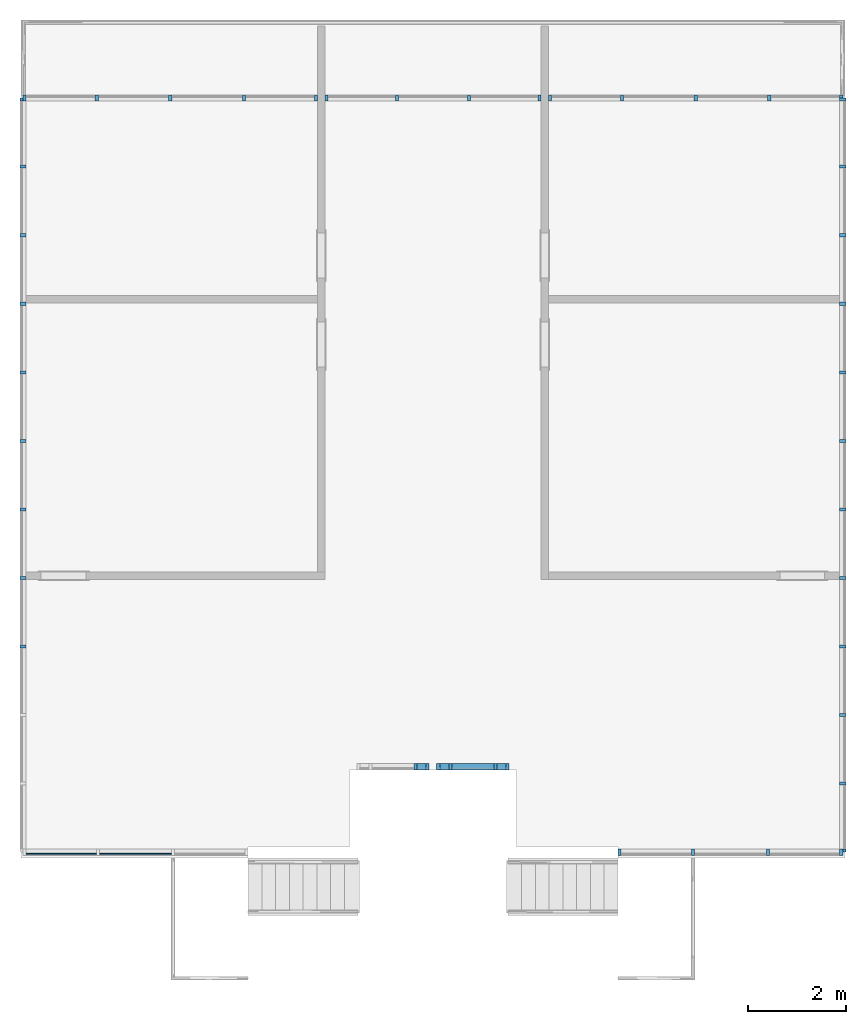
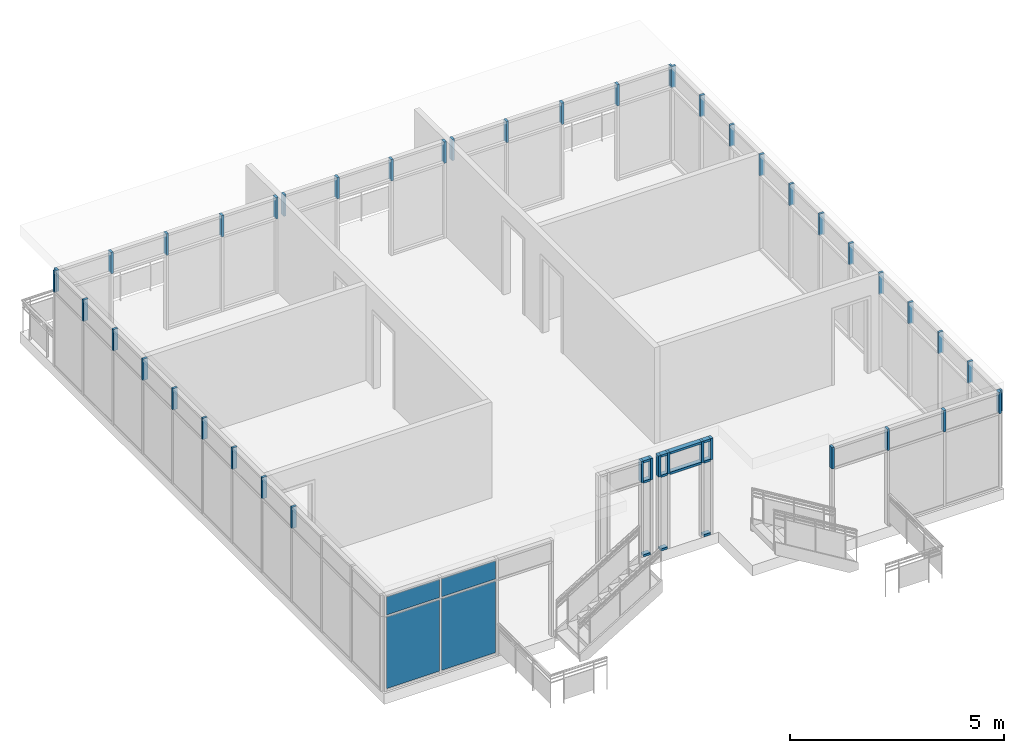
# One storey, part 4 of 11: 56 members, 4 plates, 9 elements without a shape of their own.
"""IFC2X3 building model written with IfcOpenShell, lengths in feet."""

from ifc_helpers import new_model, entity, si_unit, converted_unit, derived_unit, direction, frame, frame_2d, origin, origin_2d_with_axis, place, context, subcontext, project, spatial, rectangle, extrude, source, transform, mapped, material, layer, layer_set, layer_usage, type_object, type_shapes, element, aggregate, save


model = new_model("IFC2X3")

# Units and contexts
model_context = context("Model", 3, precision=0.0001, world=origin(), true_north=direction((6.12303176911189e-17, 1.0)))
body_context = subcontext(model_context, "Body", "Model", "MODEL_VIEW")
ifc_project = project(units=[converted_unit("LENGTHUNIT", "FOOT", entity("IfcRatioMeasure", 0.3048), si_unit("LENGTHUNIT", "METRE"), dimensions=[1, 0, 0, 0, 0, 0, 0]), converted_unit("AREAUNIT", "SQUARE FOOT", entity("IfcRatioMeasure", 0.09290304), si_unit("AREAUNIT", "SQUARE_METRE"), dimensions=[2, 0, 0, 0, 0, 0, 0]), converted_unit("VOLUMEUNIT", "CUBIC FOOT", entity("IfcRatioMeasure", 0.028316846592), si_unit("VOLUMEUNIT", "CUBIC_METRE"), dimensions=[3, 0, 0, 0, 0, 0, 0]), converted_unit("PLANEANGLEUNIT", "DEGREE", entity("IfcRatioMeasure", 0.0174532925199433), si_unit("PLANEANGLEUNIT", "RADIAN"), dimensions=[0, 0, 0, 0, 0, 0, 0]), si_unit("MASSUNIT", "GRAM", prefix="KILO"), derived_unit("MASSDENSITYUNIT", [(si_unit("MASSUNIT", "GRAM", prefix="KILO"), 1), (si_unit("LENGTHUNIT", "METRE"), -3)]), si_unit("TIMEUNIT", "SECOND"), si_unit("FREQUENCYUNIT", "HERTZ"), si_unit("THERMODYNAMICTEMPERATUREUNIT", "DEGREE_CELSIUS"), derived_unit("THERMALTRANSMITTANCEUNIT", [(si_unit("MASSUNIT", "GRAM", prefix="KILO"), 1), (si_unit("THERMODYNAMICTEMPERATUREUNIT", "KELVIN"), -1), (si_unit("TIMEUNIT", "SECOND"), -3)]), derived_unit("VOLUMETRICFLOWRATEUNIT", [(si_unit("LENGTHUNIT", "METRE"), 3), (si_unit("TIMEUNIT", "SECOND"), -1)]), si_unit("ELECTRICCURRENTUNIT", "AMPERE"), si_unit("ELECTRICVOLTAGEUNIT", "VOLT"), si_unit("POWERUNIT", "WATT"), si_unit("FORCEUNIT", "NEWTON"), si_unit("ILLUMINANCEUNIT", "LUX"), si_unit("LUMINOUSFLUXUNIT", "LUMEN"), si_unit("LUMINOUSINTENSITYUNIT", "CANDELA"), derived_unit("USERDEFINED", [(si_unit("MASSUNIT", "GRAM", prefix="KILO"), -1), (si_unit("LENGTHUNIT", "METRE"), -2), (si_unit("TIMEUNIT", "SECOND"), 3), (si_unit("LUMINOUSFLUXUNIT", "LUMEN"), 1)]), derived_unit("LINEARVELOCITYUNIT", [(si_unit("LENGTHUNIT", "METRE"), 1), (si_unit("TIMEUNIT", "SECOND"), -1)]), si_unit("PRESSUREUNIT", "PASCAL"), derived_unit("USERDEFINED", [(si_unit("LENGTHUNIT", "METRE"), -2), (si_unit("MASSUNIT", "GRAM", prefix="KILO"), 1), (si_unit("TIMEUNIT", "SECOND"), -2)])], contexts=[model_context])

# Site, building, storey
site_placement = place(None, origin())
site = spatial("IfcSite", under=ifc_project, at=site_placement, Name="Default", CompositionType="ELEMENT")
building_placement = place(site_placement, origin())
building = spatial("IfcBuilding", under=site, at=building_placement, CompositionType="ELEMENT")
storey_placement = place(building_placement, frame((0.0, 0.0, 50.0)))
storey = spatial("IfcBuildingStorey", under=building, at=storey_placement, Name="L 9", CompositionType="ELEMENT", Elevation=49.9999999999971)

# Curtain wall, member
curtain_wall_type = type_object("IfcCurtainWallType", Name="Curtain Wall:Storefront 2", PredefinedType="NOTDEFINED")
curtain_wall_1_placement = place(storey_placement, frame((0.0, 0.0, -50.0)))
curtain_wall_1 = element("IfcCurtainWall", 1, at=curtain_wall_1_placement, inside=storey, type_object=curtain_wall_type, Name="Curtain Wall:Storefront 2", ObjectType="Curtain Wall:Storefront 2")
ifc_material_1 = material(Name="Aluminum")
member_type_1 = type_object("IfcMemberType", Name="2.5\" x 5\" rectangular", PredefinedType="MEMBER")
shared_shape_1 = source(origin(), body_context, "Body", "SweptSolid", [
    extrude(rectangle(XDim=0.416666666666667, YDim=0.208333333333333, at=origin_2d_with_axis()), frame((-0.104166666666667, 0.0, -2.0), z_axis=(0.0, 0.0, 1.0), x_axis=(0.0, -1.0, 0.0)), (0.0, 0.0, 1.0), 2.0),
])
type_shapes(member_type_1, [shared_shape_1])
member_1_placement = place(storey_placement, frame((-21.6584961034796, -6.94114126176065, 7.0), z_axis=(0.0, 0.0, -1.0), x_axis=(-1.0, 0.0, 0.0)))
member_1 = element("IfcMember", 2, at=member_1_placement, type_object=member_type_1, material=ifc_material_1, Name="Rectangular Mullion:2.5\" x 5\" rectangular", ObjectType="2.5\" x 5\" rectangular", context=body_context, shape_type="MappedRepresentation", body=[
    mapped(shared_shape_1, transform((0.0, 0.0, 0.0), scale=1.0)),
])

curtain_wall_2_placement = place(storey_placement, frame((0.0, 0.0, -50.0)))
curtain_wall_2 = element("IfcCurtainWall", 3, at=curtain_wall_2_placement, inside=storey, type_object=curtain_wall_type, Name="Curtain Wall:Storefront 2", ObjectType="Curtain Wall:Storefront 2")
member_2_placement = place(storey_placement, frame((-33.7418294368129, -1.23280792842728, 7.0), z_axis=(0.0, 0.0, -1.0), x_axis=(-1.0, 0.0, 0.0)))
member_2 = element("IfcMember", 4, at=member_2_placement, type_object=member_type_1, material=ifc_material_1, Name="Rectangular Mullion:2.5\" x 5\" rectangular", ObjectType="2.5\" x 5\" rectangular", context=body_context, shape_type="MappedRepresentation", body=[
    mapped(shared_shape_1, transform((0.0, 0.0, 0.0), scale=1.0)),
])

curtain_wall_3_placement = place(storey_placement, frame((0.0, 0.0, -50.0)))
curtain_wall_3 = element("IfcCurtainWall", 5, at=curtain_wall_3_placement, inside=storey, type_object=curtain_wall_type, Name="Curtain Wall:Storefront 2", ObjectType="Curtain Wall:Storefront 2")
member_3_placement = place(storey_placement, frame((-61.3251627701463, 43.3505254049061, 7.0), z_axis=(0.0, 0.0, -1.0), x_axis=(0.0, 1.0, 0.0)))
member_3 = element("IfcMember", 6, at=member_3_placement, type_object=member_type_1, material=ifc_material_1, Name="Rectangular Mullion:2.5\" x 5\" rectangular", ObjectType="2.5\" x 5\" rectangular", context=body_context, shape_type="MappedRepresentation", body=[
    mapped(shared_shape_1, transform((0.0, 0.0, 0.0), scale=1.0)),
])

curtain_wall_4_placement = place(storey_placement, frame((0.0, 0.0, -50.0)))
curtain_wall_4 = element("IfcCurtainWall", 7, at=curtain_wall_4_placement, inside=storey, type_object=curtain_wall_type, Name="Curtain Wall:Storefront 2", ObjectType="Curtain Wall:Storefront 2")
member_4_placement = place(storey_placement, frame((-41.6963748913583, 43.3505254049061, 7.0), z_axis=(0.0, 0.0, -1.0), x_axis=(1.0, 0.0, 0.0)))
member_4 = element("IfcMember", 8, at=member_4_placement, type_object=member_type_1, material=ifc_material_1, Name="Rectangular Mullion:2.5\" x 5\" rectangular", ObjectType="2.5\" x 5\" rectangular", context=body_context, shape_type="MappedRepresentation", body=[
    mapped(shared_shape_1, transform((0.0, 0.0, 0.0), scale=1.0)),
])

curtain_wall_5_placement = place(storey_placement, frame((0.0, 0.0, -50.0)))
curtain_wall_5 = element("IfcCurtainWall", 9, at=curtain_wall_5_placement, inside=storey, type_object=curtain_wall_type, Name="Curtain Wall:Storefront 2", ObjectType="Curtain Wall:Storefront 2")
member_5_placement = place(storey_placement, frame((-6.65849610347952, -6.9411412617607, 7.0), z_axis=(0.0, 0.0, -1.0), x_axis=(0.0, -1.0, 0.0)))
member_5 = element("IfcMember", 10, at=member_5_placement, type_object=member_type_1, material=ifc_material_1, Name="Rectangular Mullion:2.5\" x 5\" rectangular", ObjectType="2.5\" x 5\" rectangular", context=body_context, shape_type="MappedRepresentation", body=[
    mapped(shared_shape_1, transform((0.0, 0.0, 0.0), scale=1.0)),
])

curtain_wall_6_placement = place(storey_placement, frame((0.0, 0.0, -50.0)))
curtain_wall_6 = element("IfcCurtainWall", 11, at=curtain_wall_6_placement, inside=storey, type_object=curtain_wall_type, Name="Curtain Wall:Storefront 2", ObjectType="Curtain Wall:Storefront 2")
member_6_placement = place(storey_placement, frame((-6.65849610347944, 43.350525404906, 7.0), z_axis=(0.0, 0.0, -1.0), x_axis=(1.0, 0.0, 0.0)))
member_6 = element("IfcMember", 12, at=member_6_placement, type_object=member_type_1, material=ifc_material_1, Name="Rectangular Mullion:2.5\" x 5\" rectangular", ObjectType="2.5\" x 5\" rectangular", context=body_context, shape_type="MappedRepresentation", body=[
    mapped(shared_shape_1, transform((0.0, 0.0, 0.0), scale=1.0)),
])

curtain_wall_7_placement = place(storey_placement, frame((0.0, 0.0, -50.0)))
curtain_wall_7 = element("IfcCurtainWall", 13, at=curtain_wall_7_placement, inside=storey, type_object=curtain_wall_type, Name="Curtain Wall:Storefront 2", ObjectType="Curtain Wall:Storefront 2")
member_7_placement = place(storey_placement, frame((-26.7872839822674, 43.350525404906, 7.0), z_axis=(0.0, 0.0, -1.0), x_axis=(1.0, 0.0, 0.0)))
member_7 = element("IfcMember", 14, at=member_7_placement, type_object=member_type_1, material=ifc_material_1, Name="Rectangular Mullion:2.5\" x 5\" rectangular", ObjectType="2.5\" x 5\" rectangular", context=body_context, shape_type="MappedRepresentation", body=[
    mapped(shared_shape_1, transform((0.0, 0.0, 0.0), scale=1.0)),
])

# Member
member_type_2 = type_object("IfcMemberType", Name="2.5\" x 5\" rectangular", PredefinedType="MEMBER")
shared_shape_2 = source(origin(), body_context, "Body", "SweptSolid", [
    extrude(rectangle(XDim=0.416666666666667, YDim=0.208333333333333, at=origin_2d_with_axis()), frame((-0.104166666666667, 0.0, -2.0), z_axis=(0.0, 0.0, 1.0), x_axis=(0.0, -1.0, 0.0)), (0.0, 0.0, 1.0), 2.0),
])
type_shapes(member_type_2, [shared_shape_2])
member_8_placement = place(storey_placement, frame((-6.65849610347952, -6.94114126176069, 9.0)))
member_8 = element("IfcMember", 15, at=member_8_placement, type_object=member_type_2, material=ifc_material_1, Name="Rectangular Mullion:2.5\" x 5\" rectangular", ObjectType="2.5\" x 5\" rectangular", context=body_context, shape_type="MappedRepresentation", body=[
    mapped(shared_shape_2, transform((0.0, 0.0, 0.0), scale=1.0)),
])

# Curtain wall, member
curtain_wall_8_placement = place(storey_placement, frame((0.0, 0.0, -50.0)))
curtain_wall_8 = element("IfcCurtainWall", 16, at=curtain_wall_8_placement, inside=storey, type_object=curtain_wall_type, Name="Curtain Wall:Storefront 2", ObjectType="Curtain Wall:Storefront 2")
member_9_placement = place(storey_placement, frame((-34.2418294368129, -1.23280792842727, 9.0)))
member_9 = element("IfcMember", 17, at=member_9_placement, type_object=member_type_2, material=ifc_material_1, Name="Rectangular Mullion:2.5\" x 5\" rectangular", ObjectType="2.5\" x 5\" rectangular", context=body_context, shape_type="MappedRepresentation", body=[
    mapped(shared_shape_2, transform((0.0, 0.0, 0.0), scale=1.0)),
])

# Member
member_10_placement = place(storey_placement, frame((-28.9084961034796, -1.23280792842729, 9.0)))
member_10 = element("IfcMember", 18, at=member_10_placement, type_object=member_type_2, material=ifc_material_1, Name="Rectangular Mullion:2.5\" x 5\" rectangular", ObjectType="2.5\" x 5\" rectangular", context=body_context, shape_type="MappedRepresentation", body=[
    mapped(shared_shape_2, transform((0.0, 0.0, 0.0), scale=1.0)),
])

member_11_placement = place(storey_placement, frame((-61.3251627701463, 43.3505254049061, 9.0), z_axis=(0.0, 0.0, 1.0), x_axis=(-1.0, 0.0, 0.0)))
member_11 = element("IfcMember", 19, at=member_11_placement, type_object=member_type_2, material=ifc_material_1, Name="Rectangular Mullion:2.5\" x 5\" rectangular", ObjectType="2.5\" x 5\" rectangular", context=body_context, shape_type="MappedRepresentation", body=[
    mapped(shared_shape_2, transform((0.0, 0.0, 0.0), scale=1.0)),
])

member_12_placement = place(storey_placement, frame((-6.65849610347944, 43.350525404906, 9.0), z_axis=(0.0, 0.0, 1.0), x_axis=(0.0, 1.0, 0.0)))
member_12 = element("IfcMember", 20, at=member_12_placement, type_object=member_type_2, material=ifc_material_1, Name="Rectangular Mullion:2.5\" x 5\" rectangular", ObjectType="2.5\" x 5\" rectangular", context=body_context, shape_type="MappedRepresentation", body=[
    mapped(shared_shape_2, transform((0.0, 0.0, 0.0), scale=1.0)),
])

member_13_placement = place(storey_placement, frame((-26.2872839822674, 43.350525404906, 9.0), z_axis=(0.0, 0.0, 1.0), x_axis=(-1.0, 0.0, 0.0)))
member_13 = element("IfcMember", 21, at=member_13_placement, type_object=member_type_2, material=ifc_material_1, Name="Rectangular Mullion:2.5\" x 5\" rectangular", ObjectType="2.5\" x 5\" rectangular", context=body_context, shape_type="MappedRepresentation", body=[
    mapped(shared_shape_2, transform((0.0, 0.0, 0.0), scale=1.0)),
])

member_14_placement = place(storey_placement, frame((-41.1963748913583, 43.3505254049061, 9.0), z_axis=(0.0, 0.0, 1.0), x_axis=(-1.0, 0.0, 0.0)))
member_14 = element("IfcMember", 22, at=member_14_placement, type_object=member_type_2, material=ifc_material_1, Name="Rectangular Mullion:2.5\" x 5\" rectangular", ObjectType="2.5\" x 5\" rectangular", context=body_context, shape_type="MappedRepresentation", body=[
    mapped(shared_shape_2, transform((0.0, 0.0, 0.0), scale=1.0)),
])

member_type_3 = type_object("IfcMemberType", Name="2.5\" x 5\" rectangular", PredefinedType="MEMBER")
shared_shape_3 = source(origin(), body_context, "Body", "SweptSolid", [
    extrude(rectangle(XDim=0.416666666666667, YDim=0.208333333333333, at=origin_2d_with_axis()), frame((0.0, 0.0, -2.0), z_axis=(0.0, 0.0, 1.0), x_axis=(0.0, -1.0, 0.0)), (0.0, 0.0, 1.0), 2.0),
])
type_shapes(member_type_3, [shared_shape_3])
member_15_placement = place(storey_placement, frame((-11.6584961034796, -6.94114126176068, 7.0), z_axis=(0.0, 0.0, -1.0), x_axis=(-1.0, 0.0, 0.0)))
member_15 = element("IfcMember", 23, at=member_15_placement, type_object=member_type_3, material=ifc_material_1, Name="Rectangular Mullion:2.5\" x 5\" rectangular", ObjectType="2.5\" x 5\" rectangular", context=body_context, shape_type="MappedRepresentation", body=[
    mapped(shared_shape_3, transform((0.0, 0.0, 0.0), scale=1.0)),
])

member_16_placement = place(storey_placement, frame((-16.6584961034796, -6.94114126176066, 7.0), z_axis=(0.0, 0.0, -1.0), x_axis=(-1.0, 0.0, 0.0)))
member_16 = element("IfcMember", 24, at=member_16_placement, type_object=member_type_3, material=ifc_material_1, Name="Rectangular Mullion:2.5\" x 5\" rectangular", ObjectType="2.5\" x 5\" rectangular", context=body_context, shape_type="MappedRepresentation", body=[
    mapped(shared_shape_3, transform((0.0, 0.0, 0.0), scale=1.0)),
])

aggregate(curtain_wall_1, [member_1, member_8, member_15, member_16])

member_17_placement = place(storey_placement, frame((-35.1584961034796, -1.23280792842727, 7.0), z_axis=(0.0, 0.0, -1.0), x_axis=(-1.0, 0.0, 0.0)))
member_17 = element("IfcMember", 25, at=member_17_placement, type_object=member_type_3, material=ifc_material_1, Name="Rectangular Mullion:2.5\" x 5\" rectangular", ObjectType="2.5\" x 5\" rectangular", context=body_context, shape_type="MappedRepresentation", body=[
    mapped(shared_shape_3, transform((0.0, 0.0, 0.0), scale=1.0)),
])

member_18_placement = place(storey_placement, frame((-29.8251627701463, -1.23280792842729, 7.0), z_axis=(0.0, 0.0, -1.0), x_axis=(-1.0, 0.0, 0.0)))
member_18 = element("IfcMember", 26, at=member_18_placement, type_object=member_type_3, material=ifc_material_1, Name="Rectangular Mullion:2.5\" x 5\" rectangular", ObjectType="2.5\" x 5\" rectangular", context=body_context, shape_type="MappedRepresentation", body=[
    mapped(shared_shape_3, transform((0.0, 0.0, 0.0), scale=1.0)),
])

member_19_placement = place(storey_placement, frame((-32.8251627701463, -1.23280792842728, 7.0), z_axis=(0.0, 0.0, -1.0), x_axis=(-1.0, 0.0, 0.0)))
member_19 = element("IfcMember", 27, at=member_19_placement, type_object=member_type_3, material=ifc_material_1, Name="Rectangular Mullion:2.5\" x 5\" rectangular", ObjectType="2.5\" x 5\" rectangular", context=body_context, shape_type="MappedRepresentation", body=[
    mapped(shared_shape_3, transform((0.0, 0.0, 0.0), scale=1.0)),
])

member_20_placement = place(storey_placement, frame((-61.3251627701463, 6.77476782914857, 7.0), z_axis=(0.0, 0.0, -1.0), x_axis=(0.0, 1.0, 0.0)))
member_20 = element("IfcMember", 28, at=member_20_placement, type_object=member_type_3, material=ifc_material_1, Name="Rectangular Mullion:2.5\" x 5\" rectangular", ObjectType="2.5\" x 5\" rectangular", context=body_context, shape_type="MappedRepresentation", body=[
    mapped(shared_shape_3, transform((0.0, 0.0, 0.0), scale=1.0)),
])

member_21_placement = place(storey_placement, frame((-61.3251627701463, 11.3467375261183, 7.0), z_axis=(0.0, 0.0, -1.0), x_axis=(0.0, 1.0, 0.0)))
member_21 = element("IfcMember", 29, at=member_21_placement, type_object=member_type_3, material=ifc_material_1, Name="Rectangular Mullion:2.5\" x 5\" rectangular", ObjectType="2.5\" x 5\" rectangular", context=body_context, shape_type="MappedRepresentation", body=[
    mapped(shared_shape_3, transform((0.0, 0.0, 0.0), scale=1.0)),
])

member_22_placement = place(storey_placement, frame((-61.3251627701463, 15.918707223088, 7.0), z_axis=(0.0, 0.0, -1.0), x_axis=(0.0, 1.0, 0.0)))
member_22 = element("IfcMember", 30, at=member_22_placement, type_object=member_type_3, material=ifc_material_1, Name="Rectangular Mullion:2.5\" x 5\" rectangular", ObjectType="2.5\" x 5\" rectangular", context=body_context, shape_type="MappedRepresentation", body=[
    mapped(shared_shape_3, transform((0.0, 0.0, 0.0), scale=1.0)),
])

member_23_placement = place(storey_placement, frame((-61.3251627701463, 20.4906769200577, 7.0), z_axis=(0.0, 0.0, -1.0), x_axis=(0.0, 1.0, 0.0)))
member_23 = element("IfcMember", 31, at=member_23_placement, type_object=member_type_3, material=ifc_material_1, Name="Rectangular Mullion:2.5\" x 5\" rectangular", ObjectType="2.5\" x 5\" rectangular", context=body_context, shape_type="MappedRepresentation", body=[
    mapped(shared_shape_3, transform((0.0, 0.0, 0.0), scale=1.0)),
])

member_24_placement = place(storey_placement, frame((-61.3251627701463, 25.0626466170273, 7.0), z_axis=(0.0, 0.0, -1.0), x_axis=(0.0, 1.0, 0.0)))
member_24 = element("IfcMember", 32, at=member_24_placement, type_object=member_type_3, material=ifc_material_1, Name="Rectangular Mullion:2.5\" x 5\" rectangular", ObjectType="2.5\" x 5\" rectangular", context=body_context, shape_type="MappedRepresentation", body=[
    mapped(shared_shape_3, transform((0.0, 0.0, 0.0), scale=1.0)),
])

member_25_placement = place(storey_placement, frame((-61.3251627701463, 29.634616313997, 7.0), z_axis=(0.0, 0.0, -1.0), x_axis=(0.0, 1.0, 0.0)))
member_25 = element("IfcMember", 33, at=member_25_placement, type_object=member_type_3, material=ifc_material_1, Name="Rectangular Mullion:2.5\" x 5\" rectangular", ObjectType="2.5\" x 5\" rectangular", context=body_context, shape_type="MappedRepresentation", body=[
    mapped(shared_shape_3, transform((0.0, 0.0, 0.0), scale=1.0)),
])

member_26_placement = place(storey_placement, frame((-61.3251627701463, 34.2065860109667, 7.0), z_axis=(0.0, 0.0, -1.0), x_axis=(0.0, 1.0, 0.0)))
member_26 = element("IfcMember", 34, at=member_26_placement, type_object=member_type_3, material=ifc_material_1, Name="Rectangular Mullion:2.5\" x 5\" rectangular", ObjectType="2.5\" x 5\" rectangular", context=body_context, shape_type="MappedRepresentation", body=[
    mapped(shared_shape_3, transform((0.0, 0.0, 0.0), scale=1.0)),
])

member_27_placement = place(storey_placement, frame((-61.3251627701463, 38.7785557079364, 7.0), z_axis=(0.0, 0.0, -1.0), x_axis=(0.0, 1.0, 0.0)))
member_27 = element("IfcMember", 35, at=member_27_placement, type_object=member_type_3, material=ifc_material_1, Name="Rectangular Mullion:2.5\" x 5\" rectangular", ObjectType="2.5\" x 5\" rectangular", context=body_context, shape_type="MappedRepresentation", body=[
    mapped(shared_shape_3, transform((0.0, 0.0, 0.0), scale=1.0)),
])

aggregate(curtain_wall_3, [member_3, member_20, member_21, member_22, member_23, member_24, member_25, member_26, member_27])

member_28_placement = place(storey_placement, frame((-56.4179658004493, 43.3505254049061, 7.0), z_axis=(0.0, 0.0, -1.0), x_axis=(1.0, 0.0, 0.0)))
member_28 = element("IfcMember", 36, at=member_28_placement, type_object=member_type_3, material=ifc_material_1, Name="Rectangular Mullion:2.5\" x 5\" rectangular", ObjectType="2.5\" x 5\" rectangular", context=body_context, shape_type="MappedRepresentation", body=[
    mapped(shared_shape_3, transform((0.0, 0.0, 0.0), scale=1.0)),
])

member_29_placement = place(storey_placement, frame((-51.5107688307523, 43.3505254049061, 7.0), z_axis=(0.0, 0.0, -1.0), x_axis=(1.0, 0.0, 0.0)))
member_29 = element("IfcMember", 37, at=member_29_placement, type_object=member_type_3, material=ifc_material_1, Name="Rectangular Mullion:2.5\" x 5\" rectangular", ObjectType="2.5\" x 5\" rectangular", context=body_context, shape_type="MappedRepresentation", body=[
    mapped(shared_shape_3, transform((0.0, 0.0, 0.0), scale=1.0)),
])

member_30_placement = place(storey_placement, frame((-46.6035718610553, 43.3505254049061, 7.0), z_axis=(0.0, 0.0, -1.0), x_axis=(1.0, 0.0, 0.0)))
member_30 = element("IfcMember", 38, at=member_30_placement, type_object=member_type_3, material=ifc_material_1, Name="Rectangular Mullion:2.5\" x 5\" rectangular", ObjectType="2.5\" x 5\" rectangular", context=body_context, shape_type="MappedRepresentation", body=[
    mapped(shared_shape_3, transform((0.0, 0.0, 0.0), scale=1.0)),
])

aggregate(curtain_wall_4, [member_4, member_11, member_28, member_29, member_30])

member_31_placement = place(storey_placement, frame((-6.65849610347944, 38.7785557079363, 7.0), z_axis=(0.0, 0.0, -1.0), x_axis=(0.0, -1.0, 0.0)))
member_31 = element("IfcMember", 39, at=member_31_placement, type_object=member_type_3, material=ifc_material_1, Name="Rectangular Mullion:2.5\" x 5\" rectangular", ObjectType="2.5\" x 5\" rectangular", context=body_context, shape_type="MappedRepresentation", body=[
    mapped(shared_shape_3, transform((0.0, 0.0, 0.0), scale=1.0)),
])

member_32_placement = place(storey_placement, frame((-6.65849610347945, 34.2065860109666, 7.0), z_axis=(0.0, 0.0, -1.0), x_axis=(0.0, -1.0, 0.0)))
member_32 = element("IfcMember", 40, at=member_32_placement, type_object=member_type_3, material=ifc_material_1, Name="Rectangular Mullion:2.5\" x 5\" rectangular", ObjectType="2.5\" x 5\" rectangular", context=body_context, shape_type="MappedRepresentation", body=[
    mapped(shared_shape_3, transform((0.0, 0.0, 0.0), scale=1.0)),
])

member_33_placement = place(storey_placement, frame((-6.65849610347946, 29.6346163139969, 7.0), z_axis=(0.0, 0.0, -1.0), x_axis=(0.0, -1.0, 0.0)))
member_33 = element("IfcMember", 41, at=member_33_placement, type_object=member_type_3, material=ifc_material_1, Name="Rectangular Mullion:2.5\" x 5\" rectangular", ObjectType="2.5\" x 5\" rectangular", context=body_context, shape_type="MappedRepresentation", body=[
    mapped(shared_shape_3, transform((0.0, 0.0, 0.0), scale=1.0)),
])

member_34_placement = place(storey_placement, frame((-6.65849610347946, 25.0626466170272, 7.0), z_axis=(0.0, 0.0, -1.0), x_axis=(0.0, -1.0, 0.0)))
member_34 = element("IfcMember", 42, at=member_34_placement, type_object=member_type_3, material=ifc_material_1, Name="Rectangular Mullion:2.5\" x 5\" rectangular", ObjectType="2.5\" x 5\" rectangular", context=body_context, shape_type="MappedRepresentation", body=[
    mapped(shared_shape_3, transform((0.0, 0.0, 0.0), scale=1.0)),
])

member_35_placement = place(storey_placement, frame((-6.65849610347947, 20.4906769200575, 7.0), z_axis=(0.0, 0.0, -1.0), x_axis=(0.0, -1.0, 0.0)))
member_35 = element("IfcMember", 43, at=member_35_placement, type_object=member_type_3, material=ifc_material_1, Name="Rectangular Mullion:2.5\" x 5\" rectangular", ObjectType="2.5\" x 5\" rectangular", context=body_context, shape_type="MappedRepresentation", body=[
    mapped(shared_shape_3, transform((0.0, 0.0, 0.0), scale=1.0)),
])

member_36_placement = place(storey_placement, frame((-6.65849610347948, 15.9187072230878, 7.0), z_axis=(0.0, 0.0, -1.0), x_axis=(0.0, -1.0, 0.0)))
member_36 = element("IfcMember", 44, at=member_36_placement, type_object=member_type_3, material=ifc_material_1, Name="Rectangular Mullion:2.5\" x 5\" rectangular", ObjectType="2.5\" x 5\" rectangular", context=body_context, shape_type="MappedRepresentation", body=[
    mapped(shared_shape_3, transform((0.0, 0.0, 0.0), scale=1.0)),
])

member_37_placement = place(storey_placement, frame((-6.65849610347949, 11.3467375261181, 7.0), z_axis=(0.0, 0.0, -1.0), x_axis=(0.0, -1.0, 0.0)))
member_37 = element("IfcMember", 45, at=member_37_placement, type_object=member_type_3, material=ifc_material_1, Name="Rectangular Mullion:2.5\" x 5\" rectangular", ObjectType="2.5\" x 5\" rectangular", context=body_context, shape_type="MappedRepresentation", body=[
    mapped(shared_shape_3, transform((0.0, 0.0, 0.0), scale=1.0)),
])

member_38_placement = place(storey_placement, frame((-6.65849610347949, 6.77476782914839, 7.0), z_axis=(0.0, 0.0, -1.0), x_axis=(0.0, -1.0, 0.0)))
member_38 = element("IfcMember", 46, at=member_38_placement, type_object=member_type_3, material=ifc_material_1, Name="Rectangular Mullion:2.5\" x 5\" rectangular", ObjectType="2.5\" x 5\" rectangular", context=body_context, shape_type="MappedRepresentation", body=[
    mapped(shared_shape_3, transform((0.0, 0.0, 0.0), scale=1.0)),
])

member_39_placement = place(storey_placement, frame((-6.6584961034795, 2.20279813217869, 7.0), z_axis=(0.0, 0.0, -1.0), x_axis=(0.0, -1.0, 0.0)))
member_39 = element("IfcMember", 47, at=member_39_placement, type_object=member_type_3, material=ifc_material_1, Name="Rectangular Mullion:2.5\" x 5\" rectangular", ObjectType="2.5\" x 5\" rectangular", context=body_context, shape_type="MappedRepresentation", body=[
    mapped(shared_shape_3, transform((0.0, 0.0, 0.0), scale=1.0)),
])

member_40_placement = place(storey_placement, frame((-6.65849610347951, -2.369171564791, 7.0), z_axis=(0.0, 0.0, -1.0), x_axis=(0.0, -1.0, 0.0)))
member_40 = element("IfcMember", 48, at=member_40_placement, type_object=member_type_3, material=ifc_material_1, Name="Rectangular Mullion:2.5\" x 5\" rectangular", ObjectType="2.5\" x 5\" rectangular", context=body_context, shape_type="MappedRepresentation", body=[
    mapped(shared_shape_3, transform((0.0, 0.0, 0.0), scale=1.0)),
])

aggregate(curtain_wall_5, [member_5, member_12, member_31, member_32, member_33, member_34, member_35, member_36, member_37, member_38, member_39, member_40])

member_41_placement = place(storey_placement, frame((-21.3800870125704, 43.350525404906, 7.0), z_axis=(0.0, 0.0, -1.0), x_axis=(1.0, 0.0, 0.0)))
member_41 = element("IfcMember", 49, at=member_41_placement, type_object=member_type_3, material=ifc_material_1, Name="Rectangular Mullion:2.5\" x 5\" rectangular", ObjectType="2.5\" x 5\" rectangular", context=body_context, shape_type="MappedRepresentation", body=[
    mapped(shared_shape_3, transform((0.0, 0.0, 0.0), scale=1.0)),
])

member_42_placement = place(storey_placement, frame((-16.4728900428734, 43.350525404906, 7.0), z_axis=(0.0, 0.0, -1.0), x_axis=(1.0, 0.0, 0.0)))
member_42 = element("IfcMember", 50, at=member_42_placement, type_object=member_type_3, material=ifc_material_1, Name="Rectangular Mullion:2.5\" x 5\" rectangular", ObjectType="2.5\" x 5\" rectangular", context=body_context, shape_type="MappedRepresentation", body=[
    mapped(shared_shape_3, transform((0.0, 0.0, 0.0), scale=1.0)),
])

member_43_placement = place(storey_placement, frame((-11.5656930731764, 43.350525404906, 7.0), z_axis=(0.0, 0.0, -1.0), x_axis=(1.0, 0.0, 0.0)))
member_43 = element("IfcMember", 51, at=member_43_placement, type_object=member_type_3, material=ifc_material_1, Name="Rectangular Mullion:2.5\" x 5\" rectangular", ObjectType="2.5\" x 5\" rectangular", context=body_context, shape_type="MappedRepresentation", body=[
    mapped(shared_shape_3, transform((0.0, 0.0, 0.0), scale=1.0)),
])

aggregate(curtain_wall_6, [member_6, member_13, member_41, member_42, member_43])

member_44_placement = place(storey_placement, frame((-36.393344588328, 43.3505254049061, 7.0), z_axis=(0.0, 0.0, -1.0), x_axis=(1.0, 0.0, 0.0)))
member_44 = element("IfcMember", 52, at=member_44_placement, type_object=member_type_3, material=ifc_material_1, Name="Rectangular Mullion:2.5\" x 5\" rectangular", ObjectType="2.5\" x 5\" rectangular", context=body_context, shape_type="MappedRepresentation", body=[
    mapped(shared_shape_3, transform((0.0, 0.0, 0.0), scale=1.0)),
])

member_45_placement = place(storey_placement, frame((-31.5903142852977, 43.350525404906, 7.0), z_axis=(0.0, 0.0, -1.0), x_axis=(1.0, 0.0, 0.0)))
member_45 = element("IfcMember", 53, at=member_45_placement, type_object=member_type_3, material=ifc_material_1, Name="Rectangular Mullion:2.5\" x 5\" rectangular", ObjectType="2.5\" x 5\" rectangular", context=body_context, shape_type="MappedRepresentation", body=[
    mapped(shared_shape_3, transform((0.0, 0.0, 0.0), scale=1.0)),
])

aggregate(curtain_wall_7, [member_7, member_14, member_44, member_45])

member_type_4 = type_object("IfcMemberType", Name="2.5\" x 5\" rectangular", PredefinedType="MEMBER")
shared_shape_4 = source(origin(), body_context, "Body", "SweptSolid", [
    extrude(rectangle(XDim=0.416666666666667, YDim=0.208333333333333, at=origin_2d_with_axis()), frame((-0.104166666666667, 0.0, -0.604166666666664), z_axis=(0.0, 0.0, 1.0), x_axis=(0.0, -1.0, 0.0)), (0.0, 0.0, 1.0), 0.604166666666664),
])
type_shapes(member_type_4, [shared_shape_4])
member_46_placement = place(storey_placement, frame((-35.0543294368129, -1.23280792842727, 9.0), z_axis=(-1.0, 0.0, 0.0), x_axis=(0.0, 0.0, 1.0)))
member_46 = element("IfcMember", 54, at=member_46_placement, type_object=member_type_4, material=ifc_material_1, Name="Rectangular Mullion:2.5\" x 5\" rectangular", ObjectType="2.5\" x 5\" rectangular", context=body_context, shape_type="MappedRepresentation", body=[
    mapped(shared_shape_4, transform((0.0, 0.0, 0.0), scale=1.0)),
])

member_47_placement = place(storey_placement, frame((-33.5334961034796, -1.23280792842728, 9.0), z_axis=(-1.0, 0.0, 0.0), x_axis=(0.0, 0.0, 1.0)))
member_47 = element("IfcMember", 55, at=member_47_placement, type_object=member_type_4, material=ifc_material_1, Name="Rectangular Mullion:2.5\" x 5\" rectangular", ObjectType="2.5\" x 5\" rectangular", context=body_context, shape_type="MappedRepresentation", body=[
    mapped(shared_shape_4, transform((0.0, 0.0, 0.0), scale=1.0)),
])

member_48_placement = place(storey_placement, frame((-29.7209961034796, -1.23280792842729, 9.0), z_axis=(-1.0, 0.0, 0.0), x_axis=(0.0, 0.0, 1.0)))
member_48 = element("IfcMember", 56, at=member_48_placement, type_object=member_type_4, material=ifc_material_1, Name="Rectangular Mullion:2.5\" x 5\" rectangular", ObjectType="2.5\" x 5\" rectangular", context=body_context, shape_type="MappedRepresentation", body=[
    mapped(shared_shape_4, transform((0.0, 0.0, 0.0), scale=1.0)),
])

member_type_5 = type_object("IfcMemberType", Name="2.5\" x 5\" rectangular", PredefinedType="MEMBER")
shared_shape_5 = source(origin(), body_context, "Body", "SweptSolid", [
    extrude(rectangle(XDim=0.416666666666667, YDim=0.208333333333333, at=origin_2d_with_axis()), frame((-0.104166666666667, 0.0, -0.604166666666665), z_axis=(0.0, 0.0, 1.0), x_axis=(0.0, -1.0, 0.0)), (0.0, 0.0, 1.0), 0.604166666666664),
])
type_shapes(member_type_5, [shared_shape_5])
member_49_placement = place(storey_placement, frame((-34.4501627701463, -1.23280792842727, 0.0), z_axis=(1.0, 0.0, 0.0), x_axis=(0.0, 0.0, -1.0)))
member_49 = element("IfcMember", 57, at=member_49_placement, type_object=member_type_5, material=ifc_material_1, Name="Rectangular Mullion:2.5\" x 5\" rectangular", ObjectType="2.5\" x 5\" rectangular", context=body_context, shape_type="MappedRepresentation", body=[
    mapped(shared_shape_5, transform((0.0, 0.0, 0.0), scale=1.0)),
])

member_50_placement = place(storey_placement, frame((-29.1168294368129, -1.23280792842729, 0.0), z_axis=(1.0, 0.0, 0.0), x_axis=(0.0, 0.0, -1.0)))
member_50 = element("IfcMember", 58, at=member_50_placement, type_object=member_type_5, material=ifc_material_1, Name="Rectangular Mullion:2.5\" x 5\" rectangular", ObjectType="2.5\" x 5\" rectangular", context=body_context, shape_type="MappedRepresentation", body=[
    mapped(shared_shape_5, transform((0.0, 0.0, 0.0), scale=1.0)),
])

member_51_placement = place(storey_placement, frame((-32.9293294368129, -1.23280792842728, 0.0), z_axis=(1.0, 0.0, 0.0), x_axis=(0.0, 0.0, -1.0)))
member_51 = element("IfcMember", 59, at=member_51_placement, type_object=member_type_5, material=ifc_material_1, Name="Rectangular Mullion:2.5\" x 5\" rectangular", ObjectType="2.5\" x 5\" rectangular", context=body_context, shape_type="MappedRepresentation", body=[
    mapped(shared_shape_5, transform((0.0, 0.0, 0.0), scale=1.0)),
])

member_type_6 = type_object("IfcMemberType", Name="2.5\" x 5\" rectangular", PredefinedType="MEMBER")
shared_shape_6 = source(origin(), body_context, "Body", "SweptSolid", [
    extrude(rectangle(XDim=0.416666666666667, YDim=0.208333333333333, at=origin_2d_with_axis()), frame((0.0, 0.0, -0.604166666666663), z_axis=(0.0, 0.0, 1.0), x_axis=(0.0, -1.0, 0.0)), (0.0, 0.0, 1.0), 0.604166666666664),
])
type_shapes(member_type_6, [shared_shape_6])
member_52_placement = place(storey_placement, frame((-35.0543294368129, -1.23280792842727, 7.0), z_axis=(-1.0, 0.0, 0.0), x_axis=(0.0, 0.0, 1.0)))
member_52 = element("IfcMember", 60, at=member_52_placement, type_object=member_type_6, material=ifc_material_1, Name="Rectangular Mullion:2.5\" x 5\" rectangular", ObjectType="2.5\" x 5\" rectangular", context=body_context, shape_type="MappedRepresentation", body=[
    mapped(shared_shape_6, transform((0.0, 0.0, 0.0), scale=1.0)),
])

aggregate(curtain_wall_8, [member_49, member_9, member_52, member_46, member_17])

member_53_placement = place(storey_placement, frame((-29.7209961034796, -1.23280792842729, 7.0), z_axis=(-1.0, 0.0, 0.0), x_axis=(0.0, 0.0, 1.0)))
member_53 = element("IfcMember", 61, at=member_53_placement, type_object=member_type_6, material=ifc_material_1, Name="Rectangular Mullion:2.5\" x 5\" rectangular", ObjectType="2.5\" x 5\" rectangular", context=body_context, shape_type="MappedRepresentation", body=[
    mapped(shared_shape_6, transform((0.0, 0.0, 0.0), scale=1.0)),
])

member_54_placement = place(storey_placement, frame((-33.5334961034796, -1.23280792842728, 7.0), z_axis=(-1.0, 0.0, 0.0), x_axis=(0.0, 0.0, 1.0)))
member_54 = element("IfcMember", 62, at=member_54_placement, type_object=member_type_6, material=ifc_material_1, Name="Rectangular Mullion:2.5\" x 5\" rectangular", ObjectType="2.5\" x 5\" rectangular", context=body_context, shape_type="MappedRepresentation", body=[
    mapped(shared_shape_6, transform((0.0, 0.0, 0.0), scale=1.0)),
])

member_type_7 = type_object("IfcMemberType", Name="2.5\" x 5\" rectangular", PredefinedType="MEMBER")
shared_shape_7 = source(origin(), body_context, "Body", "SweptSolid", [
    extrude(rectangle(XDim=0.416666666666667, YDim=0.208333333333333, at=origin_2d_with_axis()), frame((0.0, 0.0, -2.79166666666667), z_axis=(0.0, 0.0, 1.0), x_axis=(0.0, -1.0, 0.0)), (0.0, 0.0, 1.0), 2.79166666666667),
])
type_shapes(member_type_7, [shared_shape_7])
member_55_placement = place(storey_placement, frame((-32.7209961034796, -1.23280792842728, 7.0), z_axis=(-1.0, 0.0, 0.0), x_axis=(0.0, 0.0, 1.0)))
member_55 = element("IfcMember", 63, at=member_55_placement, type_object=member_type_7, material=ifc_material_1, Name="Rectangular Mullion:2.5\" x 5\" rectangular", ObjectType="2.5\" x 5\" rectangular", context=body_context, shape_type="MappedRepresentation", body=[
    mapped(shared_shape_7, transform((0.0, 0.0, 0.0), scale=1.0)),
])

member_type_8 = type_object("IfcMemberType", Name="2.5\" x 5\" rectangular", PredefinedType="MEMBER")
shared_shape_8 = source(origin(), body_context, "Body", "SweptSolid", [
    extrude(rectangle(XDim=0.416666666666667, YDim=0.208333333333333, at=origin_2d_with_axis()), frame((-0.104166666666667, 0.0, -2.79166666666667), z_axis=(0.0, 0.0, 1.0), x_axis=(0.0, -1.0, 0.0)), (0.0, 0.0, 1.0), 2.79166666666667),
])
type_shapes(member_type_8, [shared_shape_8])
member_56_placement = place(storey_placement, frame((-32.7209961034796, -1.23280792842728, 9.0), z_axis=(-1.0, 0.0, 0.0), x_axis=(0.0, 0.0, 1.0)))
member_56 = element("IfcMember", 64, at=member_56_placement, type_object=member_type_8, material=ifc_material_1, Name="Rectangular Mullion:2.5\" x 5\" rectangular", ObjectType="2.5\" x 5\" rectangular", context=body_context, shape_type="MappedRepresentation", body=[
    mapped(shared_shape_8, transform((0.0, 0.0, 0.0), scale=1.0)),
])

aggregate(curtain_wall_2, [member_47, member_50, member_2, member_10, member_53, member_48, member_55, member_18, member_56, member_51, member_54, member_19])

# Curtain wall, plates
curtain_wall_9_placement = place(storey_placement, frame((0.0, 0.0, -50.0)))
curtain_wall_9 = element("IfcCurtainWall", 65, at=curtain_wall_9_placement, inside=storey, type_object=curtain_wall_type, Name="Curtain Wall:Storefront 2", ObjectType="Curtain Wall:Storefront 2")
ifc_material_2 = material(Name="<Unnamed>")
ifc_layer = layer(ifc_material_2, 0.0833333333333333)
ifc_layer_set = layer_set([ifc_layer], Name="Curtain Wall:Storefront")
ifc_layer_usage_1 = layer_usage(ifc_layer_set, "AXIS3", "POSITIVE", 0.104166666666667)
plate_type_1 = type_object("IfcPlateType", Name="Glazed", PredefinedType="CURTAIN_PANEL", material=ifc_layer_set)
shared_shape_9 = source(origin(), body_context, "Body", "SweptSolid", [
    extrude(rectangle(XDim=0.0833333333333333, YDim=4.6875, at=frame_2d((-6.93889390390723e-18, 0.0), x_axis=(1.0, 0.0))), frame((0.0, 0.104166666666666, 0.0), z_axis=(0.0, 0.0, 1.0), x_axis=(0.0, 1.0, 0.0)), (0.0, 0.0, 1.0), 6.6875),
])
type_shapes(plate_type_1, [shared_shape_9])
plate_1_placement = place(curtain_wall_9_placement, frame((-58.7730794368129, -6.94114126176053, 50.2083333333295), z_axis=(0.0, 0.0, 1.0), x_axis=(-1.0, 0.0, 0.0)))
plate_1 = element("IfcPlate", 66, at=plate_1_placement, type_object=plate_type_1, material=ifc_layer_usage_1, Name="System Panel:Glazed", ObjectType="Glazed", context=body_context, shape_type="MappedRepresentation", body=[
    mapped(shared_shape_9, transform((0.0, 0.0, 0.0), scale=1.0)),
])
ifc_layer_usage_2 = layer_usage(ifc_layer_set, "AXIS3", "POSITIVE", 0.104166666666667)
plate_type_2 = type_object("IfcPlateType", Name="Glazed", PredefinedType="CURTAIN_PANEL", material=ifc_layer_set)
shared_shape_10 = source(origin(), body_context, "Body", "SweptSolid", [
    extrude(rectangle(XDim=0.0833333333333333, YDim=4.6875, at=frame_2d((-6.93889390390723e-18, 0.0), x_axis=(1.0, 0.0))), frame((0.0, 0.104166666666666, 0.0), z_axis=(0.0, 0.0, 1.0), x_axis=(0.0, 1.0, 0.0)), (0.0, 0.0, 1.0), 1.6875),
])
type_shapes(plate_type_2, [shared_shape_10])
plate_2_placement = place(curtain_wall_9_placement, frame((-58.7730794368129, -6.94114126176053, 57.1041666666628), z_axis=(0.0, 0.0, 1.0), x_axis=(-1.0, 0.0, 0.0)))
plate_2 = element("IfcPlate", 67, at=plate_2_placement, type_object=plate_type_2, material=ifc_layer_usage_2, Name="System Panel:Glazed", ObjectType="Glazed", context=body_context, shape_type="MappedRepresentation", body=[
    mapped(shared_shape_10, transform((0.0, 0.0, 0.0), scale=1.0)),
])
ifc_layer_usage_3 = layer_usage(ifc_layer_set, "AXIS3", "POSITIVE", 0.104166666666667)
plate_type_3 = type_object("IfcPlateType", Name="Glazed", PredefinedType="CURTAIN_PANEL", material=ifc_layer_set)
shared_shape_11 = source(origin(), body_context, "Body", "SweptSolid", [
    extrude(rectangle(XDim=0.0833333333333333, YDim=4.79166666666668, at=frame_2d((-6.93889390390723e-18, 0.0), x_axis=(1.0, 0.0))), frame((0.0, 0.104166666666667, 0.0), z_axis=(0.0, 0.0, 1.0), x_axis=(0.0, 1.0, 0.0)), (0.0, 0.0, 1.0), 1.6875),
])
type_shapes(plate_type_3, [shared_shape_11])
plate_3_placement = place(curtain_wall_9_placement, frame((-53.8251627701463, -6.94114126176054, 57.1041666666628), z_axis=(0.0, 0.0, 1.0), x_axis=(-1.0, 0.0, 0.0)))
plate_3 = element("IfcPlate", 68, at=plate_3_placement, type_object=plate_type_3, material=ifc_layer_usage_3, Name="System Panel:Glazed", ObjectType="Glazed", context=body_context, shape_type="MappedRepresentation", body=[
    mapped(shared_shape_11, transform((0.0, 0.0, 0.0), scale=1.0)),
])
ifc_layer_usage_4 = layer_usage(ifc_layer_set, "AXIS3", "POSITIVE", 0.104166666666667)
plate_type_4 = type_object("IfcPlateType", Name="Glazed", PredefinedType="CURTAIN_PANEL", material=ifc_layer_set)
shared_shape_12 = source(origin(), body_context, "Body", "SweptSolid", [
    extrude(rectangle(XDim=0.0833333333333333, YDim=4.79166666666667, at=frame_2d((-6.93889390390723e-18, 0.0), x_axis=(1.0, 0.0))), frame((0.0, 0.104166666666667, 0.0), z_axis=(0.0, 0.0, 1.0), x_axis=(0.0, 1.0, 0.0)), (0.0, 0.0, 1.0), 6.6875),
])
type_shapes(plate_type_4, [shared_shape_12])
plate_4_placement = place(curtain_wall_9_placement, frame((-53.8251627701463, -6.94114126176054, 50.2083333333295), z_axis=(0.0, 0.0, 1.0), x_axis=(-1.0, 0.0, 0.0)))
plate_4 = element("IfcPlate", 69, at=plate_4_placement, type_object=plate_type_4, material=ifc_layer_usage_4, Name="System Panel:Glazed", ObjectType="Glazed", context=body_context, shape_type="MappedRepresentation", body=[
    mapped(shared_shape_12, transform((0.0, 0.0, 0.0), scale=1.0)),
])
aggregate(curtain_wall_9, [plate_4, plate_1, plate_3, plate_2])

save(model, "model.ifc")
